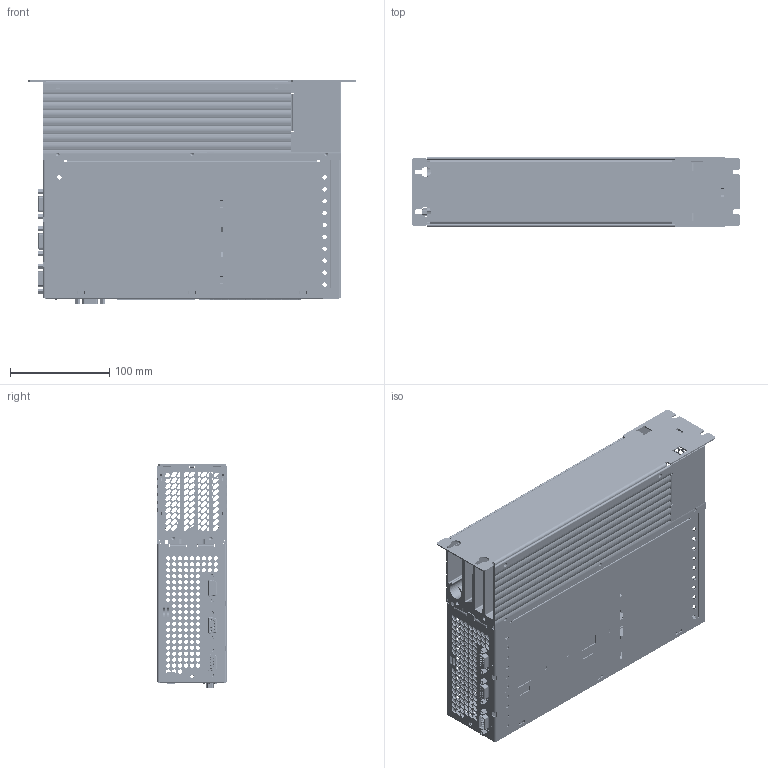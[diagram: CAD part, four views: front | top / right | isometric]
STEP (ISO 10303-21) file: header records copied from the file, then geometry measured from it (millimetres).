
FILE_DESCRIPTION (( 'STEP AP214' ), '1' );
FILE_NAME ('CDD-BG3_step.STEP', '2010-09-06T11:01:42', ( 'Bereich' ), ( 'LTi DRiVES GmbH' ), 'SwSTEP 2.0', 'SolidWorks 2008', '' );
FILE_SCHEMA (( 'AUTOMOTIVE_DESIGN' ));
Length unit declared in the file: millimetre
Products named in the file (37): Steuerprint_step_Standard; MSTBA_2.5-2-G(1)1_step_Standard; D_SUB_15POLIG_step_Standard; mc_1_5-10-g-3_81_step_Standard; Steuerprint CDB-1_step_Standard; polig-Stift_step_Standard; 0931.500.0-1_step_Standard; D-SUB 9polig 106256-1_step_Standard; D-SUB 9polig 106256_step; Drucktaster-105902-1_step_Standard; Drucktaster-105902_step; LED_3FACH_108455-1_step_Standard; LED_3FACH_108455_step; DISTANZBOLZEN 107749_step_Standard; TEST_step_Standard; D_SUB_9POLIG_108581_step_Standard; MSTBA_2.5-2-G1_step_Standard; 0892.500.0_step; CDD-BG3_step; 0892.500.0_step_Standard; Setzmutter M4_step_Standard; _U12_step_Standard; _U12-1_step_Standard; 0892.504.0_step; 0892.506.0_step_Standard; 0892.501.0_step_Standard; 0892.504.0_step_Standard; SO-M4-8_step_Standard; 0931.503.0_step_Standard; _U3_step_Standard; 0931.503.0_step; 1001.576.0_step; gmstba_2.5-12-g-7.62_step_Standard; Steuerprint CDB-1_step; Self-clinching Nut_PMM_PEM S-M4-0 ZI--N; 0892.503.0_step_Standard
Assembly tree (40 placements, depth 4):
  Steuerprint CDB-1_step_Standard
  0931.500.0-1_step_Standard
  CDD-BG3_step
    DISTANZBOLZEN 107749_step_Standard  x8
    gmstba_2.5-12-g-7.62_step_Standard
      gmstba_2.5-12-g-7.62_step_Standard
    0892.504.0_step
      _U12-1_step_Standard
    Steuerprint CDB-1_step
      D-SUB 9polig 106256_step
        D-SUB 9polig 106256-1_step_Standard
      D_SUB_15POLIG_step_Standard
      Steuerprint_step_Standard
      MSTBA_2.5-2-G(1)1_step_Standard
        MSTBA_2.5-2-G1_step_Standard
      mc_1_5-10-g-3_81_step_Standard  x2
      Drucktaster-105902_step
        Drucktaster-105902-1_step_Standard
      LED_3FACH_108455_step
        LED_3FACH_108455-1_step_Standard
      polig-Stift_step_Standard
    0892.500.0_step
      _U12_step_Standard
    D_SUB_9POLIG_108581_step_Standard
      TEST_step_Standard
    0931.503.0_step
      _U3_step_Standard
    1001.576.0_step
      Self-clinching Nut_PMM_PEM S-M4-0 ZI--N  x4
      0892.503.0_step_Standard
    0892.501.0_step_Standard
    0892.506.0_step_Standard
  0892.500.0_step_Standard
  Setzmutter M4_step_Standard
Bounding box: 330 x 70 x 224.6 mm (x, y, z)
Volume: 750935.8 mm3; surface area: 624185.5 mm2
Topology: 29 solids, 29 shells, 5769 faces, 14899 edges, 9463 vertices
Faces by surface type: plane 3495, cylinder 1083, bspline 946, cone 200, torus 27, sphere 18
Entity records: 202389 total; most frequent: CARTESIAN_POINT 68094, ORIENTED_EDGE 23742, DIRECTION 19318, EDGE_CURVE 11871, VERTEX_POINT 7585, VECTOR 7432, LINE 7432, EDGE_LOOP 6006
